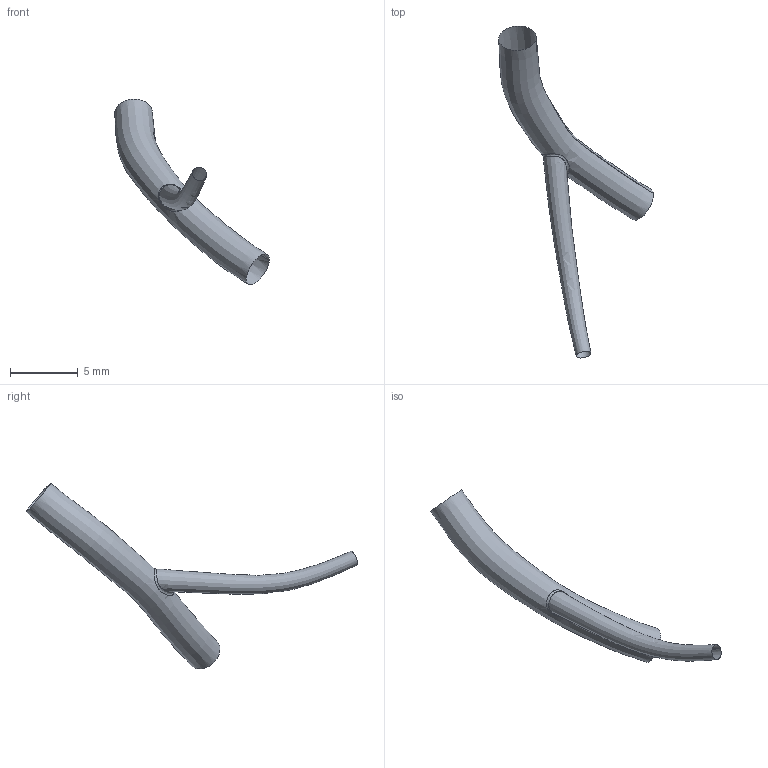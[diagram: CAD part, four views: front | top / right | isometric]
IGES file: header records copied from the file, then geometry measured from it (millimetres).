
Global section: file name: C:\Documents and Settings\Administrator\Desktop\FDA-Pig\Domestic LCA\Pig_000138\diag.ed.igs; native system: Rhinoceros ( May 19 2006 ); preprocessor: Trout Lake IGES 012 May 19 2006; date: 111205.184609; units: centimetre
Bounding box: 11.45 x 24.57 x 13.76 mm (x, y, z)
Surface area: 234.2 mm2 (no closed solid volume)
Topology: 0 solids, 0 shells, 3 faces, 38 edges, 35 vertices
Faces by surface type: bspline 3
